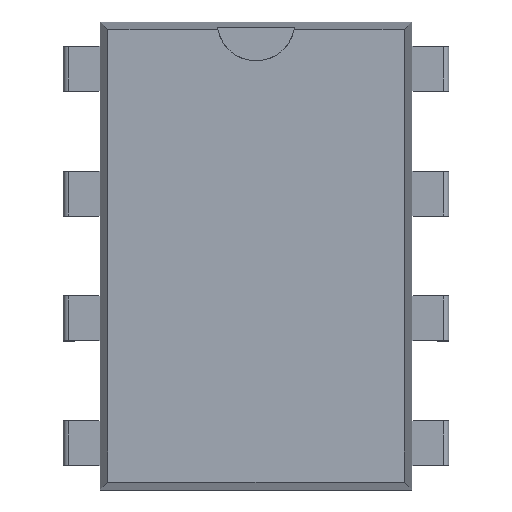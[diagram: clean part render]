
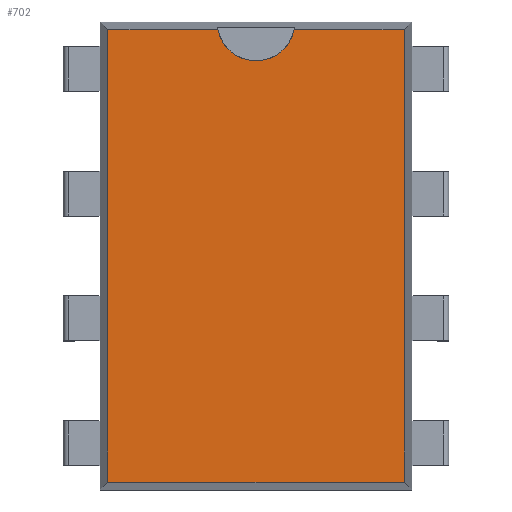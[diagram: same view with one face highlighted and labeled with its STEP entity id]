
A CAD part, top view. The second image highlights one B-rep face of the part: STEP entity #702.
In plain terms, the highlighted planar face has unit normal (0, 0, 1).
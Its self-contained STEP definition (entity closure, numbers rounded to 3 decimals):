
#141 = PLANE('',#142);
#142 = AXIS2_PLACEMENT_3D('',#143,#144,#145);
#143 = CARTESIAN_POINT('',(-3.096,-4.763,3.162));
#144 = DIRECTION('',(0.996,0.,-0.088));
#145 = DIRECTION('',(0.,1.,0.));
#227 = PLANE('',#228);
#228 = AXIS2_PLACEMENT_3D('',#229,#230,#231);
#229 = CARTESIAN_POINT('',(-3.175,-4.683,3.162));
#230 = DIRECTION('',(0.,0.996,-0.088));
#231 = DIRECTION('',(-1.,-0.,-0.));
#324 = VERTEX_POINT('',#325);
#325 = CARTESIAN_POINT('',(-3.016,-4.604,4.064));
#348 = VERTEX_POINT('',#349);
#349 = CARTESIAN_POINT('',(-3.016,4.604,4.064));
#363 = PLANE('',#364);
#364 = AXIS2_PLACEMENT_3D('',#365,#366,#367);
#365 = CARTESIAN_POINT('',(-3.175,4.683,3.162));
#366 = DIRECTION('',(0.,0.996,0.088));
#367 = DIRECTION('',(-1.,0.,0.));
#375 = EDGE_CURVE('',#324,#348,#376,.T.);
#376 = SURFACE_CURVE('',#377,(#381,#388),.PCURVE_S1.);
#377 = LINE('',#378,#379);
#378 = CARTESIAN_POINT('',(-3.016,-4.763,4.064));
#379 = VECTOR('',#380,1.);
#380 = DIRECTION('',(0.,1.,0.));
#381 = PCURVE('',#141,#382);
#382 = DEFINITIONAL_REPRESENTATION('',(#383),#387);
#383 = LINE('',#384,#385);
#384 = CARTESIAN_POINT('',(0.,0.905));
#385 = VECTOR('',#386,1.);
#386 = DIRECTION('',(1.,0.));
#387 = ( GEOMETRIC_REPRESENTATION_CONTEXT(2) 
PARAMETRIC_REPRESENTATION_CONTEXT() REPRESENTATION_CONTEXT('2D SPACE',''
  ) );
#388 = PCURVE('',#389,#394);
#389 = PLANE('',#390);
#390 = AXIS2_PLACEMENT_3D('',#391,#392,#393);
#391 = CARTESIAN_POINT('',(-3.175,-4.763,4.064));
#392 = DIRECTION('',(0.,0.,1.));
#393 = DIRECTION('',(1.,0.,0.));
#394 = DEFINITIONAL_REPRESENTATION('',(#395),#399);
#395 = LINE('',#396,#397);
#396 = CARTESIAN_POINT('',(0.159,0.));
#397 = VECTOR('',#398,1.);
#398 = DIRECTION('',(0.,1.));
#399 = ( GEOMETRIC_REPRESENTATION_CONTEXT(2) 
PARAMETRIC_REPRESENTATION_CONTEXT() REPRESENTATION_CONTEXT('2D SPACE',''
  ) );
#517 = PLANE('',#518);
#518 = AXIS2_PLACEMENT_3D('',#519,#520,#521);
#519 = CARTESIAN_POINT('',(3.096,-4.763,3.162));
#520 = DIRECTION('',(0.996,0.,0.088));
#521 = DIRECTION('',(0.,1.,0.));
#584 = VERTEX_POINT('',#585);
#585 = CARTESIAN_POINT('',(3.016,-4.604,4.064));
#606 = EDGE_CURVE('',#324,#584,#607,.T.);
#607 = SURFACE_CURVE('',#608,(#612,#619),.PCURVE_S1.);
#608 = LINE('',#609,#610);
#609 = CARTESIAN_POINT('',(-3.175,-4.604,4.064));
#610 = VECTOR('',#611,1.);
#611 = DIRECTION('',(1.,0.,0.));
#612 = PCURVE('',#227,#613);
#613 = DEFINITIONAL_REPRESENTATION('',(#614),#618);
#614 = LINE('',#615,#616);
#615 = CARTESIAN_POINT('',(-0.,0.905));
#616 = VECTOR('',#617,1.);
#617 = DIRECTION('',(-1.,0.));
#618 = ( GEOMETRIC_REPRESENTATION_CONTEXT(2) 
PARAMETRIC_REPRESENTATION_CONTEXT() REPRESENTATION_CONTEXT('2D SPACE',''
  ) );
#619 = PCURVE('',#389,#620);
#620 = DEFINITIONAL_REPRESENTATION('',(#621),#625);
#621 = LINE('',#622,#623);
#622 = CARTESIAN_POINT('',(0.,0.159));
#623 = VECTOR('',#624,1.);
#624 = DIRECTION('',(1.,0.));
#625 = ( GEOMETRIC_REPRESENTATION_CONTEXT(2) 
PARAMETRIC_REPRESENTATION_CONTEXT() REPRESENTATION_CONTEXT('2D SPACE',''
  ) );
#702 = ADVANCED_FACE('',(#703),#389,.T.);
#703 = FACE_BOUND('',#704,.T.);
#704 = EDGE_LOOP('',(#705,#706,#707,#730,#753,#782));
#705 = ORIENTED_EDGE('',*,*,#375,.F.);
#706 = ORIENTED_EDGE('',*,*,#606,.T.);
#707 = ORIENTED_EDGE('',*,*,#708,.T.);
#708 = EDGE_CURVE('',#584,#709,#711,.T.);
#709 = VERTEX_POINT('',#710);
#710 = CARTESIAN_POINT('',(3.016,4.604,4.064));
#711 = SURFACE_CURVE('',#712,(#716,#723),.PCURVE_S1.);
#712 = LINE('',#713,#714);
#713 = CARTESIAN_POINT('',(3.016,-4.763,4.064));
#714 = VECTOR('',#715,1.);
#715 = DIRECTION('',(0.,1.,0.));
#716 = PCURVE('',#389,#717);
#717 = DEFINITIONAL_REPRESENTATION('',(#718),#722);
#718 = LINE('',#719,#720);
#719 = CARTESIAN_POINT('',(6.191,0.));
#720 = VECTOR('',#721,1.);
#721 = DIRECTION('',(0.,1.));
#722 = ( GEOMETRIC_REPRESENTATION_CONTEXT(2) 
PARAMETRIC_REPRESENTATION_CONTEXT() REPRESENTATION_CONTEXT('2D SPACE',''
  ) );
#723 = PCURVE('',#517,#724);
#724 = DEFINITIONAL_REPRESENTATION('',(#725),#729);
#725 = LINE('',#726,#727);
#726 = CARTESIAN_POINT('',(0.,0.905));
#727 = VECTOR('',#728,1.);
#728 = DIRECTION('',(1.,0.));
#729 = ( GEOMETRIC_REPRESENTATION_CONTEXT(2) 
PARAMETRIC_REPRESENTATION_CONTEXT() REPRESENTATION_CONTEXT('2D SPACE',''
  ) );
#730 = ORIENTED_EDGE('',*,*,#731,.F.);
#731 = EDGE_CURVE('',#732,#709,#734,.T.);
#732 = VERTEX_POINT('',#733);
#733 = CARTESIAN_POINT('',(0.778,4.604,4.064));
#734 = SURFACE_CURVE('',#735,(#739,#746),.PCURVE_S1.);
#735 = LINE('',#736,#737);
#736 = CARTESIAN_POINT('',(-3.175,4.604,4.064));
#737 = VECTOR('',#738,1.);
#738 = DIRECTION('',(1.,0.,0.));
#739 = PCURVE('',#389,#740);
#740 = DEFINITIONAL_REPRESENTATION('',(#741),#745);
#741 = LINE('',#742,#743);
#742 = CARTESIAN_POINT('',(0.,9.366));
#743 = VECTOR('',#744,1.);
#744 = DIRECTION('',(1.,0.));
#745 = ( GEOMETRIC_REPRESENTATION_CONTEXT(2) 
PARAMETRIC_REPRESENTATION_CONTEXT() REPRESENTATION_CONTEXT('2D SPACE',''
  ) );
#746 = PCURVE('',#363,#747);
#747 = DEFINITIONAL_REPRESENTATION('',(#748),#752);
#748 = LINE('',#749,#750);
#749 = CARTESIAN_POINT('',(-0.,0.905));
#750 = VECTOR('',#751,1.);
#751 = DIRECTION('',(-1.,0.));
#752 = ( GEOMETRIC_REPRESENTATION_CONTEXT(2) 
PARAMETRIC_REPRESENTATION_CONTEXT() REPRESENTATION_CONTEXT('2D SPACE',''
  ) );
#753 = ORIENTED_EDGE('',*,*,#754,.F.);
#754 = EDGE_CURVE('',#755,#732,#757,.T.);
#755 = VERTEX_POINT('',#756);
#756 = CARTESIAN_POINT('',(-0.778,4.604,4.064));
#757 = SURFACE_CURVE('',#758,(#763,#770),.PCURVE_S1.);
#758 = CIRCLE('',#759,0.794);
#759 = AXIS2_PLACEMENT_3D('',#760,#761,#762);
#760 = CARTESIAN_POINT('',(0.,4.763,4.064));
#761 = DIRECTION('',(0.,0.,1.));
#762 = DIRECTION('',(1.,0.,0.));
#763 = PCURVE('',#389,#764);
#764 = DEFINITIONAL_REPRESENTATION('',(#765),#769);
#765 = CIRCLE('',#766,0.794);
#766 = AXIS2_PLACEMENT_2D('',#767,#768);
#767 = CARTESIAN_POINT('',(3.175,9.525));
#768 = DIRECTION('',(1.,0.));
#769 = ( GEOMETRIC_REPRESENTATION_CONTEXT(2) 
PARAMETRIC_REPRESENTATION_CONTEXT() REPRESENTATION_CONTEXT('2D SPACE',''
  ) );
#770 = PCURVE('',#771,#776);
#771 = CYLINDRICAL_SURFACE('',#772,0.794);
#772 = AXIS2_PLACEMENT_3D('',#773,#774,#775);
#773 = CARTESIAN_POINT('',(0.,4.763,3.658));
#774 = DIRECTION('',(0.,0.,1.));
#775 = DIRECTION('',(1.,0.,0.));
#776 = DEFINITIONAL_REPRESENTATION('',(#777),#781);
#777 = LINE('',#778,#779);
#778 = CARTESIAN_POINT('',(0.,0.406));
#779 = VECTOR('',#780,1.);
#780 = DIRECTION('',(1.,0.));
#781 = ( GEOMETRIC_REPRESENTATION_CONTEXT(2) 
PARAMETRIC_REPRESENTATION_CONTEXT() REPRESENTATION_CONTEXT('2D SPACE',''
  ) );
#782 = ORIENTED_EDGE('',*,*,#783,.F.);
#783 = EDGE_CURVE('',#348,#755,#784,.T.);
#784 = SURFACE_CURVE('',#785,(#789,#796),.PCURVE_S1.);
#785 = LINE('',#786,#787);
#786 = CARTESIAN_POINT('',(-3.175,4.604,4.064));
#787 = VECTOR('',#788,1.);
#788 = DIRECTION('',(1.,0.,0.));
#789 = PCURVE('',#389,#790);
#790 = DEFINITIONAL_REPRESENTATION('',(#791),#795);
#791 = LINE('',#792,#793);
#792 = CARTESIAN_POINT('',(0.,9.366));
#793 = VECTOR('',#794,1.);
#794 = DIRECTION('',(1.,0.));
#795 = ( GEOMETRIC_REPRESENTATION_CONTEXT(2) 
PARAMETRIC_REPRESENTATION_CONTEXT() REPRESENTATION_CONTEXT('2D SPACE',''
  ) );
#796 = PCURVE('',#363,#797);
#797 = DEFINITIONAL_REPRESENTATION('',(#798),#802);
#798 = LINE('',#799,#800);
#799 = CARTESIAN_POINT('',(-0.,0.905));
#800 = VECTOR('',#801,1.);
#801 = DIRECTION('',(-1.,0.));
#802 = ( GEOMETRIC_REPRESENTATION_CONTEXT(2) 
PARAMETRIC_REPRESENTATION_CONTEXT() REPRESENTATION_CONTEXT('2D SPACE',''
  ) );
